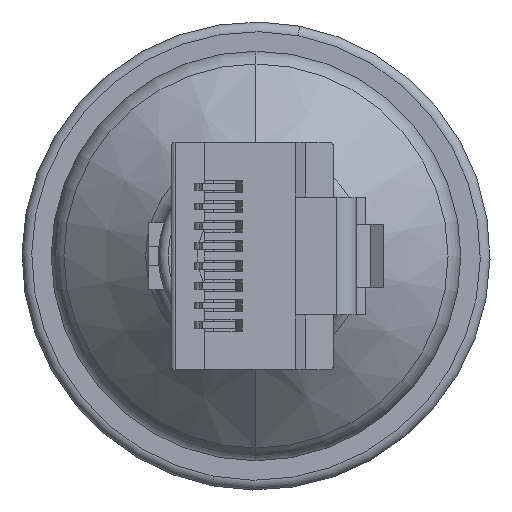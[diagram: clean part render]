
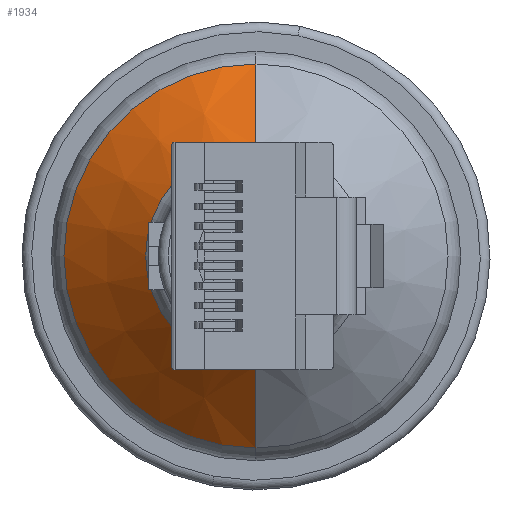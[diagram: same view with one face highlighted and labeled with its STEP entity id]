
A CAD part, left-side view. The second image highlights one B-rep face of the part: STEP entity #1934.
In plain terms, the highlighted conical face has half-angle 47.726 degrees and reference radius 5 mm.
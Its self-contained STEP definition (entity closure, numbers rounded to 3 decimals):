
#100 = EDGE_CURVE ( 'NONE', #3034, #3044, #6058, .T. ) ;
#113 = EDGE_CURVE ( 'NONE', #3034, #3042, #6072, .T. ) ;
#114 = EDGE_CURVE ( 'NONE', #3044, #3043, #6073, .T. ) ;
#220 = EDGE_CURVE ( 'NONE', #3043, #3042, #7404, .T. ) ;
#1452 = AXIS2_PLACEMENT_3D ( 'NONE', #8475, #8476, #8477 ) ;
#1934 = ADVANCED_FACE ( 'NONE', ( #13529 ), #13537, .T. ) ;
#3034 = VERTEX_POINT ( 'NONE', #17354 ) ;
#3042 = VERTEX_POINT ( 'NONE', #17362 ) ;
#3043 = VERTEX_POINT ( 'NONE', #17363 ) ;
#3044 = VERTEX_POINT ( 'NONE', #17364 ) ;
#4402 = EDGE_LOOP ( 'NONE', ( #20374, #20382, #20391, #20381 ) ) ;
#4930 = AXIS2_PLACEMENT_3D ( 'NONE', #6799, #6800, #6801 ) ;
#6058 = CIRCLE ( 'NONE', #4930, 5.655 ) ;
#6072 = LINE ( 'NONE', #6820, #6074 ) ;
#6073 = LINE ( 'NONE', #6841, #6076 ) ;
#6074 = VECTOR ( 'NONE', #6833, 1000. ) ;
#6076 = VECTOR ( 'NONE', #6842, 1000. ) ;
#6799 = CARTESIAN_POINT ( 'NONE',  ( 10.405, 0., 0. ) ) ;
#6800 = DIRECTION ( 'NONE',  ( -1., 0., 0. ) ) ;
#6801 = DIRECTION ( 'NONE',  ( 0., 0., 1. ) ) ;
#6820 = CARTESIAN_POINT ( 'NONE',  ( 11., 0., -5. ) ) ;
#6833 = DIRECTION ( 'NONE',  ( -0.673, 0., -0.74 ) ) ;
#6841 = CARTESIAN_POINT ( 'NONE',  ( 11., 0., 5. ) ) ;
#6842 = DIRECTION ( 'NONE',  ( -0.673, 0., 0.74 ) ) ;
#7404 = CIRCLE ( 'NONE', #1452, 9.845 ) ;
#8475 = CARTESIAN_POINT ( 'NONE',  ( 6.595, 0., 0. ) ) ;
#8476 = DIRECTION ( 'NONE',  ( 1., 0., 0. ) ) ;
#8477 = DIRECTION ( 'NONE',  ( 0., 0., -1. ) ) ;
#13529 = FACE_OUTER_BOUND ( 'NONE', #4402, .T. ) ;
#13537 = CONICAL_SURFACE ( 'NONE', #16735, 5., 0.833 ) ;
#16128 = DIRECTION ( 'NONE',  ( 0., 0., 1. ) ) ;
#16129 = DIRECTION ( 'NONE',  ( -1., 0., 0. ) ) ;
#16131 = CARTESIAN_POINT ( 'NONE',  ( 11., 0., 0. ) ) ;
#16735 = AXIS2_PLACEMENT_3D ( 'NONE', #16131, #16129, #16128 ) ;
#17354 = CARTESIAN_POINT ( 'NONE',  ( 10.405, 0., -5.655 ) ) ;
#17362 = CARTESIAN_POINT ( 'NONE',  ( 6.595, 0., -9.845 ) ) ;
#17363 = CARTESIAN_POINT ( 'NONE',  ( 6.595, 0., 9.845 ) ) ;
#17364 = CARTESIAN_POINT ( 'NONE',  ( 10.405, 0., 5.655 ) ) ;
#20374 = ORIENTED_EDGE ( 'NONE', *, *, #113, .F. ) ;
#20381 = ORIENTED_EDGE ( 'NONE', *, *, #220, .T. ) ;
#20382 = ORIENTED_EDGE ( 'NONE', *, *, #100, .T. ) ;
#20391 = ORIENTED_EDGE ( 'NONE', *, *, #114, .T. ) ;
